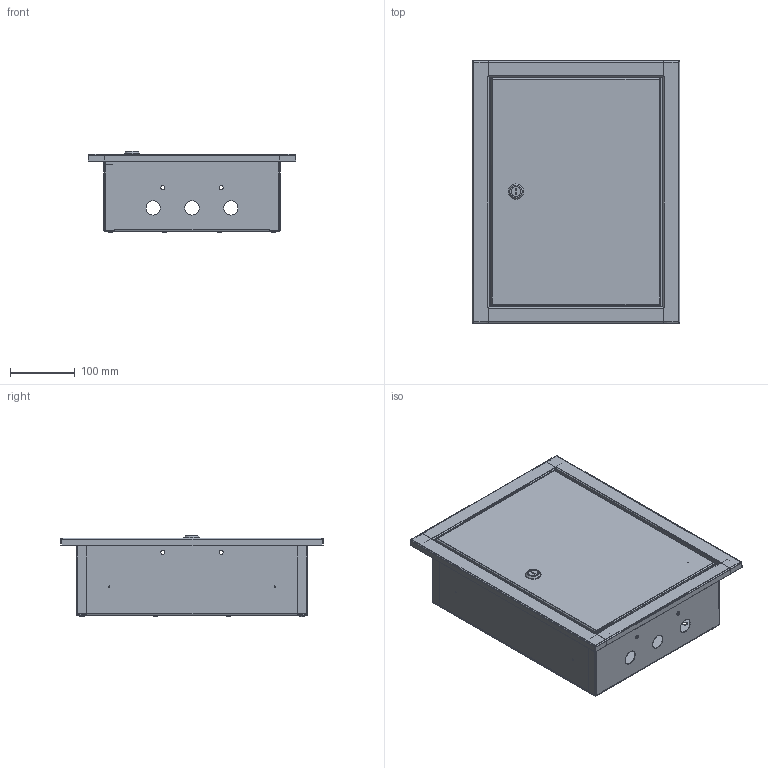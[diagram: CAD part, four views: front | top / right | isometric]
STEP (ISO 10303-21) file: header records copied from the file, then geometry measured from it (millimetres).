
FILE_DESCRIPTION (( 'STEP AP214' ), '1' );
FILE_NAME ('ÙÐÂ-24 IP31 405õ320õ120-ÊÝÀÇ.STEP', '2023-01-24T13:20:34', ( '' ), ( '' ), 'SwSTEP 2.0', 'SolidWorks 2018', '' );
FILE_SCHEMA (( 'AUTOMOTIVE_DESIGN' ));
Length unit declared in the file: millimetre
Products named in the file (1): ÙÐÂ-24 IP31 405õ320õ120-ÊÝÀÇ
Bounding box: 320 x 405 x 125.29 mm (x, y, z)
Surface area: 940388.8 mm2 (no closed solid volume)
Topology: 0 solids, 52 shells, 286 faces, 1040 edges, 741 vertices
Faces by surface type: plane 124, cylinder 117, sphere 24, bspline 11, cone 10
Entity records: 14751 total; most frequent: CARTESIAN_POINT 2925, DIRECTION 1878, ORIENTED_EDGE 1410, EDGE_CURVE 1004, VERTEX_POINT 729, AXIS2_PLACEMENT_3D 679, LINE 520, VECTOR 520
